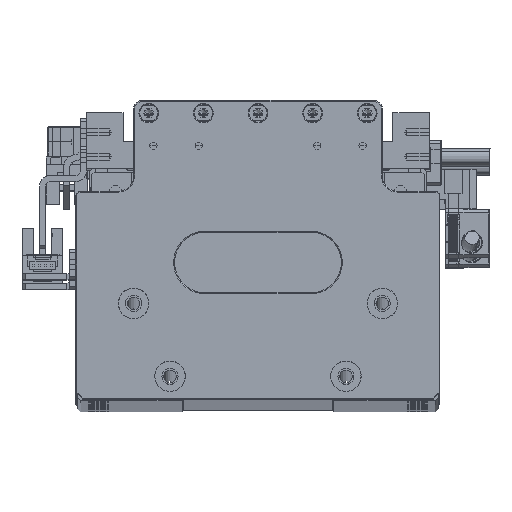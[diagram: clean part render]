
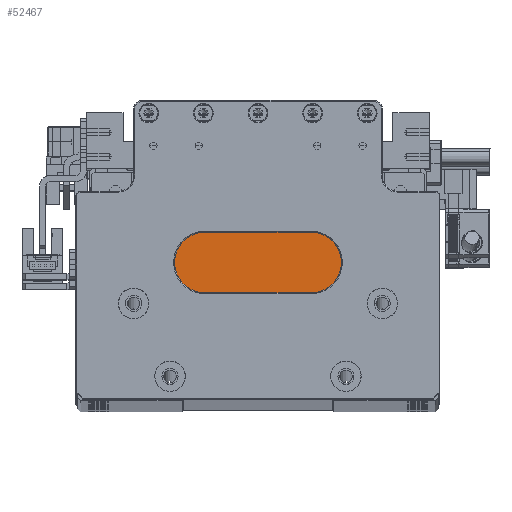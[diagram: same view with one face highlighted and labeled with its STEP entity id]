
A CAD part, top view. The second image highlights one B-rep face of the part: STEP entity #52467.
In plain terms, the highlighted planar face has unit normal (0, 0, 1).
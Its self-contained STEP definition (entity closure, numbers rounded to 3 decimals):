
#289 = EDGE_CURVE ( 'NONE', #118169, #135383, #129886, .T. ) ;
#653 = PLANE ( 'NONE',  #103246 ) ;
#802 = CARTESIAN_POINT ( 'NONE',  ( 1.618, -17.023, 375. ) ) ;
#818 = CARTESIAN_POINT ( 'NONE',  ( -23.132, -17.023, 375. ) ) ;
#1642 = VERTEX_POINT ( 'NONE', #57777 ) ;
#2701 = CARTESIAN_POINT ( 'NONE',  ( -23.132, -9.223, 375. ) ) ;
#3708 = DIRECTION ( 'NONE',  ( 1., 0., 0. ) ) ;
#3906 = LINE ( 'NONE', #95296, #112393 ) ;
#4134 = VERTEX_POINT ( 'NONE', #32769 ) ;
#5935 = ORIENTED_EDGE ( 'NONE', *, *, #116353, .T. ) ;
#9105 = AXIS2_PLACEMENT_3D ( 'NONE', #27758, #101304, #38293 ) ;
#11121 = LINE ( 'NONE', #24776, #116345 ) ;
#11681 = EDGE_CURVE ( 'NONE', #130817, #1642, #63450, .T. ) ;
#12226 = CARTESIAN_POINT ( 'NONE',  ( 25.168, -49.223, 375. ) ) ;
#14440 = EDGE_CURVE ( 'NONE', #1642, #130817, #49909, .T. ) ;
#14813 = CARTESIAN_POINT ( 'NONE',  ( 13.868, -9.023, 375. ) ) ;
#14839 = ORIENTED_EDGE ( 'NONE', *, *, #100818, .T. ) ;
#14882 = VERTEX_POINT ( 'NONE', #12226 ) ;
#20161 = ORIENTED_EDGE ( 'NONE', *, *, #104413, .T. ) ;
#21741 = CARTESIAN_POINT ( 'NONE',  ( -4.632, -9.023, 375. ) ) ;
#24776 = CARTESIAN_POINT ( 'NONE',  ( -34.632, -49.223, 375. ) ) ;
#27321 = VERTEX_POINT ( 'NONE', #2701 ) ;
#27758 = CARTESIAN_POINT ( 'NONE',  ( 2.868, -17.023, 375. ) ) ;
#27762 = DIRECTION ( 'NONE',  ( 0., 0., -1. ) ) ;
#27818 = ORIENTED_EDGE ( 'NONE', *, *, #289, .T. ) ;
#31693 = EDGE_CURVE ( 'NONE', #27321, #76069, #80200, .T. ) ;
#31810 = DIRECTION ( 'NONE',  ( -1., 0., 0. ) ) ;
#32769 = CARTESIAN_POINT ( 'NONE',  ( -34.432, -49.223, 375. ) ) ;
#36220 = EDGE_LOOP ( 'NONE', ( #121999, #65273 ) ) ;
#37871 = CARTESIAN_POINT ( 'NONE',  ( -12.132, -17.023, 375. ) ) ;
#38293 = DIRECTION ( 'NONE',  ( 1., 0., 0. ) ) ;
#40478 = ORIENTED_EDGE ( 'NONE', *, *, #67351, .T. ) ;
#42306 = CARTESIAN_POINT ( 'NONE',  ( 2.868, -17.023, 375. ) ) ;
#42840 = DIRECTION ( 'NONE',  ( 0., 0., 1. ) ) ;
#44348 = ORIENTED_EDGE ( 'NONE', *, *, #81244, .T. ) ;
#45251 = EDGE_CURVE ( 'NONE', #14882, #129399, #55516, .T. ) ;
#45697 = VECTOR ( 'NONE', #77819, 1000. ) ;
#45700 = CARTESIAN_POINT ( 'NONE',  ( -34.432, -17.023, 375. ) ) ;
#49909 = CIRCLE ( 'NONE', #68832, 1.25 ) ;
#52177 = CARTESIAN_POINT ( 'NONE',  ( -4.632, -17.023, 375. ) ) ;
#52179 = VECTOR ( 'NONE', #131448, 1000. ) ;
#52467 = ADVANCED_FACE ( 'NONE', ( #118168, #65487, #62204 ), #653, .T. ) ;
#52713 = EDGE_CURVE ( 'NONE', #121077, #87213, #126355, .T. ) ;
#52862 = DIRECTION ( 'NONE',  ( 1., 0., 0. ) ) ;
#53041 = EDGE_LOOP ( 'NONE', ( #44348, #106430, #66622, #40478, #20161, #54922, #5935, #83320 ) ) ;
#54922 = ORIENTED_EDGE ( 'NONE', *, *, #45251, .T. ) ;
#55516 = LINE ( 'NONE', #94712, #136121 ) ;
#57777 = CARTESIAN_POINT ( 'NONE',  ( -10.882, -17.023, 375. ) ) ;
#57874 = CARTESIAN_POINT ( 'NONE',  ( -23.132, -9.023, 375. ) ) ;
#59101 = DIRECTION ( 'NONE',  ( 0., -1., 0. ) ) ;
#62204 = FACE_BOUND ( 'NONE', #36220, .T. ) ;
#63450 = CIRCLE ( 'NONE', #99448, 1.25 ) ;
#65273 = ORIENTED_EDGE ( 'NONE', *, *, #11681, .T. ) ;
#65487 = FACE_BOUND ( 'NONE', #104435, .T. ) ;
#66622 = ORIENTED_EDGE ( 'NONE', *, *, #109810, .T. ) ;
#67351 = EDGE_CURVE ( 'NONE', #86398, #4134, #122010, .T. ) ;
#67915 = DIRECTION ( 'NONE',  ( 1., 0., 0. ) ) ;
#68832 = AXIS2_PLACEMENT_3D ( 'NONE', #37871, #130902, #67915 ) ;
#70941 = DIRECTION ( 'NONE',  ( -1., 0., 0. ) ) ;
#76069 = VERTEX_POINT ( 'NONE', #818 ) ;
#76415 = CIRCLE ( 'NONE', #119953, 1.25 ) ;
#77819 = DIRECTION ( 'NONE',  ( 0., 1., 0. ) ) ;
#78942 = LINE ( 'NONE', #52177, #131511 ) ;
#80200 = LINE ( 'NONE', #57874, #52179 ) ;
#81244 = EDGE_CURVE ( 'NONE', #87213, #27321, #3906, .T. ) ;
#83320 = ORIENTED_EDGE ( 'NONE', *, *, #52713, .T. ) ;
#86398 = VERTEX_POINT ( 'NONE', #45700 ) ;
#87213 = VERTEX_POINT ( 'NONE', #102154 ) ;
#90639 = LINE ( 'NONE', #123315, #93929 ) ;
#90745 = CARTESIAN_POINT ( 'NONE',  ( -12.132, -17.023, 375. ) ) ;
#90759 = VECTOR ( 'NONE', #59101, 1000. ) ;
#93929 = VECTOR ( 'NONE', #70941, 1000. ) ;
#94712 = CARTESIAN_POINT ( 'NONE',  ( 25.168, -9.023, 375. ) ) ;
#95296 = CARTESIAN_POINT ( 'NONE',  ( -4.632, -9.223, 375. ) ) ;
#99448 = AXIS2_PLACEMENT_3D ( 'NONE', #90745, #27762, #101309 ) ;
#100818 = EDGE_CURVE ( 'NONE', #135383, #118169, #76415, .T. ) ;
#101304 = DIRECTION ( 'NONE',  ( 0., 0., -1. ) ) ;
#101309 = DIRECTION ( 'NONE',  ( 1., 0., 0. ) ) ;
#102154 = CARTESIAN_POINT ( 'NONE',  ( 13.868, -9.223, 375. ) ) ;
#102203 = CARTESIAN_POINT ( 'NONE',  ( 4.118, -17.023, 375. ) ) ;
#102556 = CARTESIAN_POINT ( 'NONE',  ( 13.868, -17.023, 375. ) ) ;
#103246 = AXIS2_PLACEMENT_3D ( 'NONE', #21741, #42840, #116430 ) ;
#104413 = EDGE_CURVE ( 'NONE', #4134, #14882, #11121, .T. ) ;
#104435 = EDGE_LOOP ( 'NONE', ( #27818, #14839 ) ) ;
#104630 = DIRECTION ( 'NONE',  ( -1., 0., 0. ) ) ;
#105270 = DIRECTION ( 'NONE',  ( 0., 1., 0. ) ) ;
#106430 = ORIENTED_EDGE ( 'NONE', *, *, #31693, .T. ) ;
#109810 = EDGE_CURVE ( 'NONE', #76069, #86398, #78942, .T. ) ;
#111532 = CARTESIAN_POINT ( 'NONE',  ( -34.432, -9.023, 375. ) ) ;
#112393 = VECTOR ( 'NONE', #31810, 1000. ) ;
#113359 = CARTESIAN_POINT ( 'NONE',  ( -13.382, -17.023, 375. ) ) ;
#115905 = DIRECTION ( 'NONE',  ( 0., 0., -1. ) ) ;
#116345 = VECTOR ( 'NONE', #3708, 1000. ) ;
#116353 = EDGE_CURVE ( 'NONE', #129399, #121077, #90639, .T. ) ;
#116430 = DIRECTION ( 'NONE',  ( 1., 0., 0. ) ) ;
#116944 = CARTESIAN_POINT ( 'NONE',  ( 25.168, -17.023, 375. ) ) ;
#118168 = FACE_OUTER_BOUND ( 'NONE', #53041, .T. ) ;
#118169 = VERTEX_POINT ( 'NONE', #102203 ) ;
#119953 = AXIS2_PLACEMENT_3D ( 'NONE', #42306, #115905, #52862 ) ;
#121077 = VERTEX_POINT ( 'NONE', #102556 ) ;
#121999 = ORIENTED_EDGE ( 'NONE', *, *, #14440, .T. ) ;
#122010 = LINE ( 'NONE', #111532, #90759 ) ;
#123315 = CARTESIAN_POINT ( 'NONE',  ( -4.632, -17.023, 375. ) ) ;
#126355 = LINE ( 'NONE', #14813, #45697 ) ;
#129399 = VERTEX_POINT ( 'NONE', #116944 ) ;
#129886 = CIRCLE ( 'NONE', #9105, 1.25 ) ;
#130817 = VERTEX_POINT ( 'NONE', #113359 ) ;
#130902 = DIRECTION ( 'NONE',  ( 0., 0., -1. ) ) ;
#131448 = DIRECTION ( 'NONE',  ( 0., -1., 0. ) ) ;
#131511 = VECTOR ( 'NONE', #104630, 1000. ) ;
#135383 = VERTEX_POINT ( 'NONE', #802 ) ;
#136121 = VECTOR ( 'NONE', #105270, 1000. ) ;
